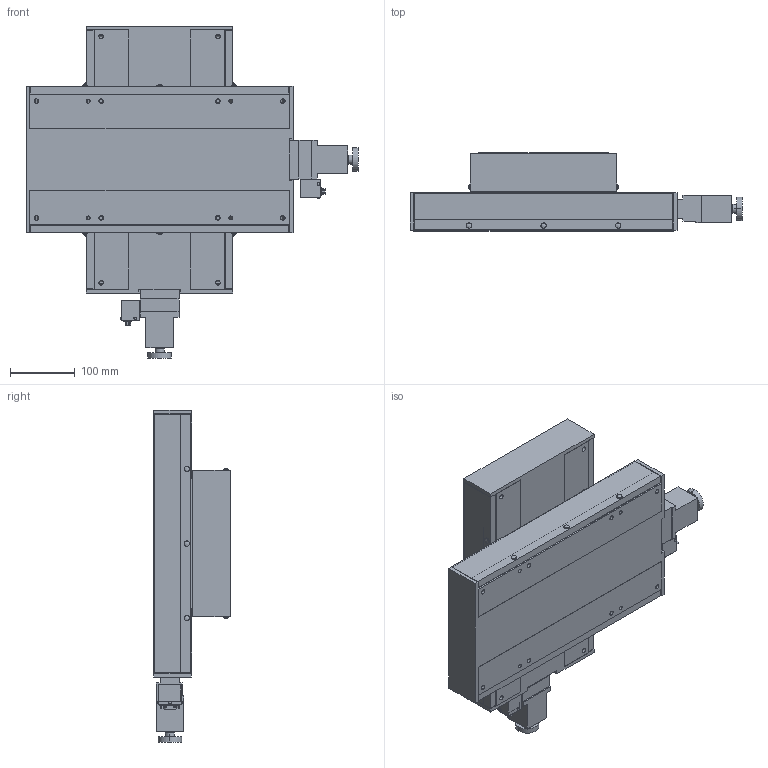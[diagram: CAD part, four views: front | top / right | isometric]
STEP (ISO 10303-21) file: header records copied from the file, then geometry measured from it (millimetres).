
FILE_DESCRIPTION (( 'STEP AP203' ), '1' );
FILE_NAME ('ALD-212-C2PB.STEP', '2008-03-11T09:17:35', ( '' ), ( '' ), 'SwSTEP 2.0', 'SolidWorks 2007', '' );
FILE_SCHEMA (( 'CONFIG_CONTROL_DESIGN' ));
Length unit declared in the file: millimetre
Products named in the file (8): ALD-212-C2PB-3_蹬怮椔; ALD-212-C2PB-2_蹬怮椔; ALD-212-C2PB-1_蹬怮椔; ALD-212-C2PB; ALD-212-C2PB-7_蹬怮椔; ALD-212-C2PB-6_蹬怮椔; ALD-212-C2PB-5_蹬怮椔; ALD-212-C2PB-4_蹬怮椔
Assembly tree (7 placements, depth 2):
  ALD-212-C2PB
    ALD-212-C2PB-4_蹬怮椔
    ALD-212-C2PB-5_蹬怮椔
    ALD-212-C2PB-6_蹬怮椔
    ALD-212-C2PB-2_蹬怮椔
    ALD-212-C2PB-1_蹬怮椔
    ALD-212-C2PB-3_蹬怮椔
    ALD-212-C2PB-7_蹬怮椔
Bounding box: 512 x 120 x 512 mm (x, y, z)
Volume: 6010852.9 mm3; surface area: 1546575.1 mm2
Topology: 7 solids, 25 shells, 1726 faces, 4514 edges, 2988 vertices
Faces by surface type: plane 1186, cylinder 486, cone 36, bspline 18
Entity records: 57564 total; most frequent: CARTESIAN_POINT 12952, ORIENTED_EDGE 9028, DIRECTION 8958, EDGE_CURVE 4514, VECTOR 3434, LINE 3434, VERTEX_POINT 2988, AXIS2_PLACEMENT_3D 2762
